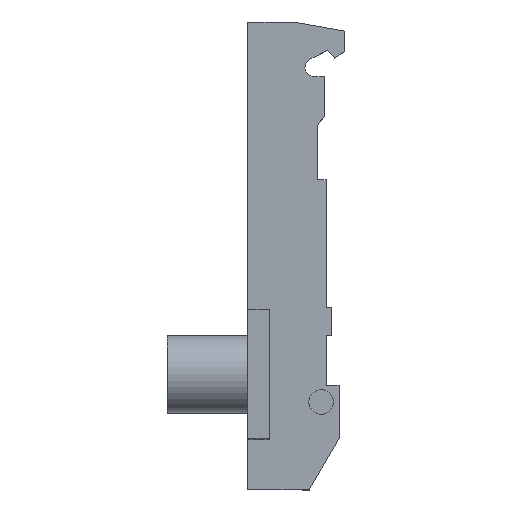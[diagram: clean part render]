
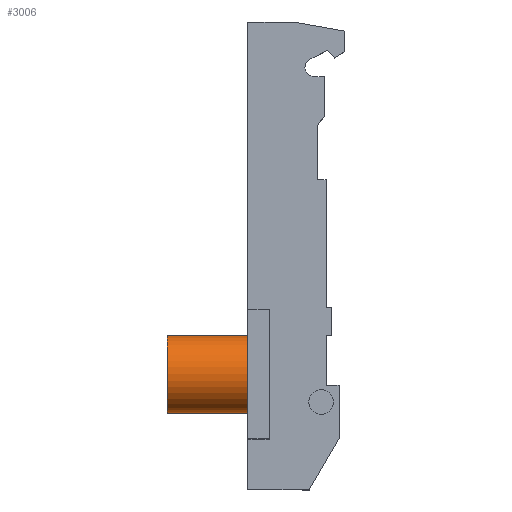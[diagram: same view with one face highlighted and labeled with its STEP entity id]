
A CAD part, top view. The second image highlights one B-rep face of the part: STEP entity #3006.
In plain terms, the highlighted cylindrical face has radius 5.35 mm (diameter 10.7 mm), a partial arc.
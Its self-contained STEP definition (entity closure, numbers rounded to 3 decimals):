
#66 = EDGE_CURVE ( 'NONE', #1286, #1281, #716, .T. ) ;
#80 = AXIS2_PLACEMENT_3D ( 'NONE', #1959, #1970, #1965 ) ;
#140 = AXIS2_PLACEMENT_3D ( 'NONE', #1716, #1658, #1659 ) ;
#171 = AXIS2_PLACEMENT_3D ( 'NONE', #1765, #1751, #1745 ) ;
#357 = CARTESIAN_POINT ( 'NONE',  ( -11.2, 5.35, 16. ) ) ;
#362 = DIRECTION ( 'NONE',  ( 1., 0., 0. ) ) ;
#413 = CYLINDRICAL_SURFACE ( 'NONE', #80, 5.35 ) ;
#419 = FACE_OUTER_BOUND ( 'NONE', #2412, .T. ) ;
#482 = ORIENTED_EDGE ( 'NONE', *, *, #66, .F. ) ;
#483 = ORIENTED_EDGE ( 'NONE', *, *, #1081, .F. ) ;
#484 = ORIENTED_EDGE ( 'NONE', *, *, #926, .T. ) ;
#485 = ORIENTED_EDGE ( 'NONE', *, *, #1112, .T. ) ;
#716 = LINE ( 'NONE', #357, #868 ) ;
#831 = LINE ( 'NONE', #1426, #844 ) ;
#844 = VECTOR ( 'NONE', #1427, 1000. ) ;
#868 = VECTOR ( 'NONE', #362, 1000. ) ;
#926 = EDGE_CURVE ( 'NONE', #1287, #1272, #831, .T. ) ;
#1081 = EDGE_CURVE ( 'NONE', #1287, #1286, #2847, .T. ) ;
#1112 = EDGE_CURVE ( 'NONE', #1272, #1281, #2792, .T. ) ;
#1272 = VERTEX_POINT ( 'NONE', #2097 ) ;
#1281 = VERTEX_POINT ( 'NONE', #2086 ) ;
#1286 = VERTEX_POINT ( 'NONE', #2080 ) ;
#1287 = VERTEX_POINT ( 'NONE', #2081 ) ;
#1426 = CARTESIAN_POINT ( 'NONE',  ( -11.2, -5.35, 16. ) ) ;
#1427 = DIRECTION ( 'NONE',  ( 1., 0., 0. ) ) ;
#1658 = DIRECTION ( 'NONE',  ( -1., 0., 0. ) ) ;
#1659 = DIRECTION ( 'NONE',  ( 0., 1., 0. ) ) ;
#1716 = CARTESIAN_POINT ( 'NONE',  ( 0., 0., 16. ) ) ;
#1745 = DIRECTION ( 'NONE',  ( 0., 1., 0. ) ) ;
#1751 = DIRECTION ( 'NONE',  ( -1., 0., 0. ) ) ;
#1765 = CARTESIAN_POINT ( 'NONE',  ( -11.2, 0., 16. ) ) ;
#1959 = CARTESIAN_POINT ( 'NONE',  ( -11.2, 0., 16. ) ) ;
#1965 = DIRECTION ( 'NONE',  ( 0., -1., 0. ) ) ;
#1970 = DIRECTION ( 'NONE',  ( 1., 0., 0. ) ) ;
#2080 = CARTESIAN_POINT ( 'NONE',  ( -11.2, 5.35, 16. ) ) ;
#2081 = CARTESIAN_POINT ( 'NONE',  ( -11.2, -5.35, 16. ) ) ;
#2086 = CARTESIAN_POINT ( 'NONE',  ( 0., 5.35, 16. ) ) ;
#2097 = CARTESIAN_POINT ( 'NONE',  ( 0., -5.35, 16. ) ) ;
#2412 = EDGE_LOOP ( 'NONE', ( #482, #483, #484, #485 ) ) ;
#2792 = CIRCLE ( 'NONE', #140, 5.35 ) ;
#2847 = CIRCLE ( 'NONE', #171, 5.35 ) ;
#3006 = ADVANCED_FACE ( 'NONE', ( #419 ), #413, .T. ) ;
